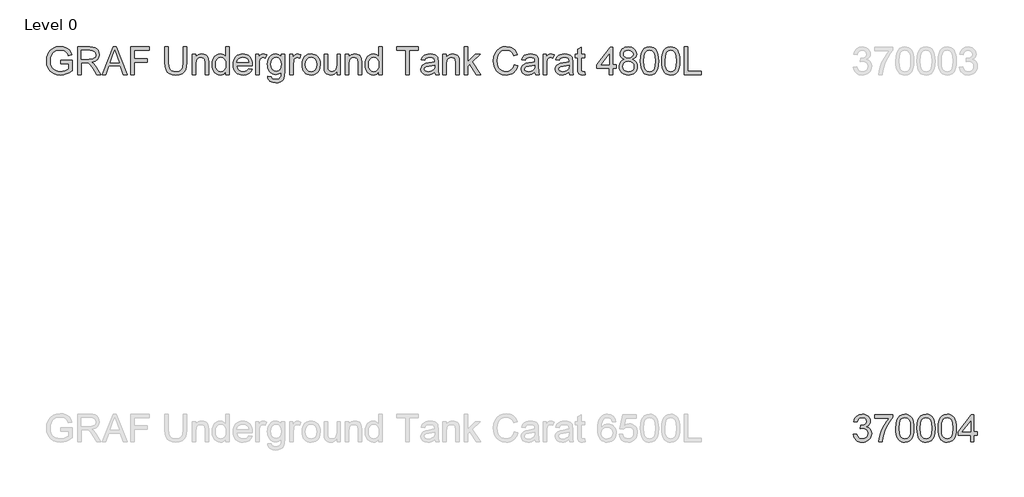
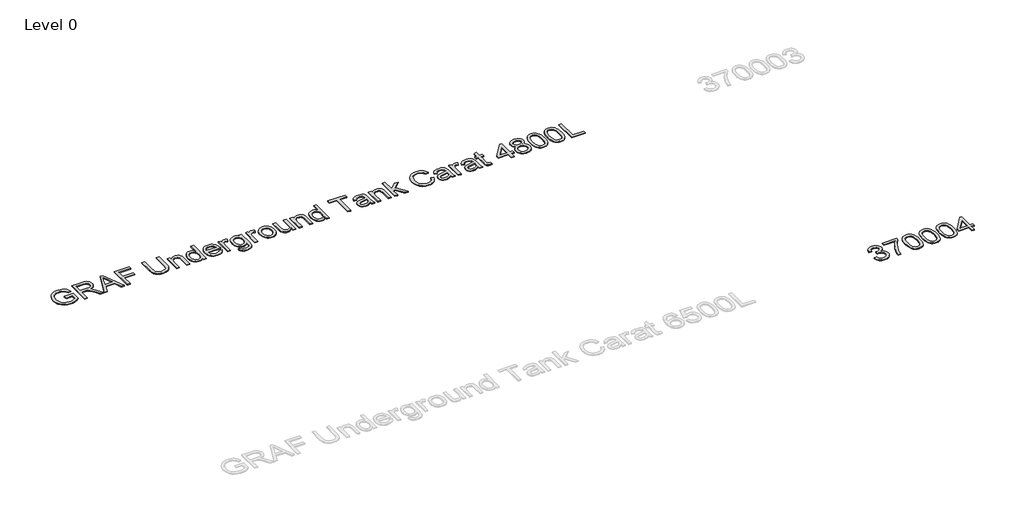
# One storey, part 14 of 19: 2 proxies.
"""IFC4 building model written with IfcOpenShell, lengths in millimetres."""

import ifcopenshell
import ifcopenshell.guid

model = None  # the IFC model being written
_history = None  # IfcOwnerHistory: only IFC2X3 demands one
_inside = {}  # id of a spatial element -> (the spatial element, [elements in it])
_under = {}  # id of a project, library or spatial element -> (it, [spatial elements below it])
_declared = {}  # id of a project -> (the project, [libraries it declares])
_typed = {}  # id of a type object -> (the type object, [elements of that type])
_made_of = {}  # id of a material, layer set ... -> (it, [elements and type objects made of it])


def new_model(schema):
    """Start an empty IFC model of exactly this schema.

    Asked for "IFC4X3", IfcOpenShell would pick the latest addendum, in which some entities
    have other attributes; the version numbers below select the first issue.
    IFC2X3 requires an IfcOwnerHistory on every rooted entity: one is made here for all.
    """
    global model, _history
    if schema == "IFC4X3":
        model = ifcopenshell.file(schema_version=(4, 3, 0, 0))
    else:
        model = ifcopenshell.file(schema=schema)
    _inside.clear()
    _under.clear()
    _declared.clear()
    _typed.clear()
    _made_of.clear()
    _history = None
    if model.schema == "IFC2X3":
        org = make("IfcOrganization", Name="unknown")
        user = make(
            "IfcPersonAndOrganization",
            ThePerson=make("IfcPerson", FamilyName="unknown"),
            TheOrganization=org,
        )
        app = make(
            "IfcApplication",
            ApplicationDeveloper=org,
            Version="unknown",
            ApplicationFullName="unknown",
            ApplicationIdentifier="unknown",
        )
        _history = make(
            "IfcOwnerHistory",
            OwningUser=user,
            OwningApplication=app,
            ChangeAction="ADDED",
            CreationDate=0,
        )
    return model


def make(cls, **values):
    """One entity of the class cls with the attributes given. An attribute that is None is left unset."""
    return model.create_entity(
        cls, **{name: value for name, value in values.items() if value is not None}
    )


def rooted(cls, **values):
    """An entity with a GlobalId (a new one), such as an element, a storey or a relation."""
    return make(cls, GlobalId=ifcopenshell.guid.new(), OwnerHistory=_history, **values)


def si_unit(unit_type, name, prefix=None):
    """IfcSIUnit, for example si_unit("LENGTHUNIT", "METRE", prefix="MILLI")."""
    return make("IfcSIUnit", UnitType=unit_type, Prefix=prefix, Name=name)


def assignment(units):
    """IfcUnitAssignment: the units of a project."""
    return None if units is None else make("IfcUnitAssignment", Units=units)


def point(xyz):
    """IfcCartesianPoint."""
    return None if xyz is None else make("IfcCartesianPoint", Coordinates=xyz)


def direction(xyz):
    """IfcDirection."""
    return None if xyz is None else make("IfcDirection", DirectionRatios=xyz)


def frame(location, z_axis=None, x_axis=None):
    """IfcAxis2Placement3D, a coordinate frame: its origin and axes. An axis left out is left unset."""
    return make(
        "IfcAxis2Placement3D",
        Location=point(location),
        Axis=direction(z_axis),
        RefDirection=direction(x_axis),
    )


def origin():
    """The frame at (0, 0, 0) with its axes left unset."""
    return frame((0.0, 0.0, 0.0))


def origin_with_axes():
    """The frame at (0, 0, 0) with the z axis (0, 0, 1) and the x axis (1, 0, 0) written out."""
    return frame((0.0, 0.0, 0.0), z_axis=(0.0, 0.0, 1.0), x_axis=(1.0, 0.0, 0.0))


def place(relative_to, where):
    """IfcLocalPlacement: puts the frame where relative to a parent placement (None: the world)."""
    return make(
        "IfcLocalPlacement", PlacementRelTo=relative_to, RelativePlacement=where
    )


def context(
    kind, dimensions, precision=None, world=None, true_north=None, identifier=None
):
    """IfcGeometricRepresentationContext, for example the 3D "Model" context."""
    return make(
        "IfcGeometricRepresentationContext",
        ContextIdentifier=identifier,
        ContextType=kind,
        CoordinateSpaceDimension=dimensions,
        Precision=precision,
        WorldCoordinateSystem=world,
        TrueNorth=true_north,
    )


def project(units=None, contexts=None):
    """IfcProject with its units and contexts."""
    return rooted(
        "IfcProject",
        Name="project",
        RepresentationContexts=contexts,
        UnitsInContext=assignment(units),
    )


def spatial(cls, under=None, at=None, **own):
    """A site, building, storey or space (cls), placed at a placement, below another one or the project."""
    s = rooted(cls, ObjectPlacement=at, **own)
    if under is not None:
        _under.setdefault(under.id(), (under, []))[1].append(s)
    return s


def polyline(points):
    """IfcPolyline through the points."""
    return make("IfcPolyline", Points=[point(p) for p in points])


def outline(outer, holes=None, kind="AREA"):
    """IfcArbitraryClosedProfileDef: a profile drawn as a closed curve; with holes, ...WithVoids."""
    if holes is None:
        return make("IfcArbitraryClosedProfileDef", ProfileType=kind, OuterCurve=outer)
    return make(
        "IfcArbitraryProfileDefWithVoids",
        ProfileType=kind,
        OuterCurve=outer,
        InnerCurves=holes,
    )


def extrude(swept, where, along, depth):
    """IfcExtrudedAreaSolid: the profile swept, set in the frame where, extruded along a direction by depth."""
    return make(
        "IfcExtrudedAreaSolid",
        SweptArea=swept,
        Position=where,
        ExtrudedDirection=direction(along),
        Depth=depth,
    )


def shape(context_of_items, identifier, shape_type, items):
    """IfcShapeRepresentation: the items that make up one representation, for example the "Body"."""
    return make(
        "IfcShapeRepresentation",
        ContextOfItems=context_of_items,
        RepresentationIdentifier=identifier,
        RepresentationType=shape_type,
        Items=items,
    )


def made_of(thing, what):
    """Note that an element or type object is made of a material, layer set ...; save() writes the relation."""
    if what is not None:
        _made_of.setdefault(what.id(), (what, []))[1].append(thing)
    return thing


def element(
    cls,
    number,
    at=None,
    inside=None,
    cuts=None,
    type_object=None,
    material=None,
    context=None,
    identifier="Body",
    shape_type=None,
    held_by="IfcProductDefinitionShape",
    body=None,
    shapes=None,
    **own,
):
    """One element of the class cls, such as IfcWall. Its Tag is "e" and its number.

    at: its placement. inside: the storey or other place that contains it. cuts: it is an
    opening in that element (IfcRelVoidsElement). A single representation is given by context,
    identifier, shape_type and body (its items); several are given by shapes. held_by: the class
    of the entity that holds the representations. save() writes the other relations.
    """
    e = rooted(cls, Tag="e%d" % number, ObjectPlacement=at, **own)
    if body is not None:
        shapes = [shape(context, identifier, shape_type, body)]
    if shapes is not None:
        e.Representation = make(held_by, Representations=shapes)
    if inside is not None:
        _inside.setdefault(inside.id(), (inside, []))[1].append(e)
    if cuts is not None:
        rooted(
            "IfcRelVoidsElement", RelatingBuildingElement=cuts, RelatedOpeningElement=e
        )
    if type_object is not None:
        _typed.setdefault(type_object.id(), (type_object, []))[1].append(e)
    return made_of(e, material)


def aggregate(whole, parts):
    """IfcRelAggregates: a whole, such as a stair, and the parts it consists of."""
    return rooted("IfcRelAggregates", RelatingObject=whole, RelatedObjects=parts)


def save(model, path):
    """Write the relations noted so far, then the file.

    IfcRelAggregates (storeys below a building ...), IfcRelContainedInSpatialStructure (elements
    in a storey), IfcRelDefinesByType, IfcRelAssociatesMaterial and IfcRelDeclares: one each for
    every whole, place, type object, material and project.
    """
    for whole, parts in _under.values():
        aggregate(whole, parts)
    for where, things in _inside.values():
        rooted(
            "IfcRelContainedInSpatialStructure",
            RelatedElements=things,
            RelatingStructure=where,
        )
    for kind, things in _typed.values():
        rooted("IfcRelDefinesByType", RelatedObjects=things, RelatingType=kind)
    for what, things in _made_of.values():
        rooted("IfcRelAssociatesMaterial", RelatedObjects=things, RelatingMaterial=what)
    for by, libraries in _declared.values():
        rooted("IfcRelDeclares", RelatingContext=by, RelatedDefinitions=libraries)
    model.write(path)


model = new_model("IFC4")

# Units and contexts
model_context = context("Model", 3, world=origin())
ifc_project = project(units=[si_unit("LENGTHUNIT", "METRE", prefix="MILLI")], contexts=[model_context])

# Site, building, storey
site = spatial("IfcSite", under=ifc_project)
building = spatial("IfcBuilding", under=site)
storey = spatial("IfcBuildingStorey", under=building, Name="Level 0", Elevation=0.0)

# Proxies
placement = place(None, origin())
element("IfcBuildingElementProxy", 1, Name="300mm Arial", ObjectType="300mm Arial", at=placement, inside=storey, context=model_context, shape_type="SweptSolid", body=[
    extrude(outline(polyline([(-14980.9940387, 1416.7454403), (-14980.9940387, 1454.4165566), (-14858.5629107, 1454.4165566), (-14858.5629107, 1341.7710897), (-14888.3153671, 1321.0777274), (-14919.0059225, 1306.2336889), (-14950.5610007, 1297.2941564), (-14982.9070251, 1294.3143123), (-15025.1674693, 1299.050793), (-15063.3628175, 1313.260235), (-15095.0926395, 1336.4459978), (-15117.9565055, 1368.1114405), (-15131.7796715, 1406.0952565), (-15136.3873935, 1448.2361391), (-15131.7980656, 1490.6805243), (-15118.0300819, 1530.1634594), (-15095.6536596, 1563.282036), (-15065.2390156, 1586.6333457), (-15028.1932987, 1600.4841028), (-14985.9236575, 1605.1010218), (-14954.8928112, 1602.4246803), (-14926.9889618, 1594.3956557), (-14903.4904994, 1581.5933623), (-14885.6758138, 1564.5972141), (-14872.4964413, 1542.5886738), (-14862.9039183, 1514.7492038), (-14897.6319786, 1504.9635427), (-14905.3850917, 1524.8199734), (-14914.8120678, 1539.8019677), (-14927.2832674, 1551.0959449), (-14944.169051, 1559.8883246), (-14964.3013932, 1565.5445103), (-14986.5122687, 1567.4299055), (-15012.5123287, 1565.3973575), (-15034.7415982, 1559.2997134), (-15053.1173039, 1549.9003284), (-15067.5566722, 1537.9625577), (-15086.9440533, 1508.9366683), (-15095.7732212, 1480.49939), (-15098.7162772, 1449.7812434), (-15095.175413, 1413.7563991), (-15084.5528204, 1384.1143073), (-15067.1703961, 1361.0665003), (-15043.3500369, 1344.8245102), (-15015.4737787, 1335.195199), (-14985.9236575, 1331.9854286), (-14959.831627, 1334.4042527), (-14934.3833899, 1341.6607251), (-14912.2828791, 1351.6579183), (-14896.234027, 1362.298905), (-14896.234027, 1416.7454403), (-14980.9940387, 1416.7454403)])), origin_with_axes(), (0.0, 0.0, 1.0), 10.0),
    extrude(outline(polyline([(-14797.3473467, 1299.0232018), (-14797.3473467, 1600.3921323), (-14667.4850024, 1600.3921323), (-14632.5821982, 1598.3595842), (-14607.1891434, 1592.2619402), (-14588.6294968, 1581.0047511), (-14574.2269167, 1563.4935682), (-14564.9838815, 1541.7793334), (-14561.9028698, 1517.912989), (-14567.0072325, 1488.2249119), (-14582.3203206, 1463.6136065), (-14593.9200997, 1453.5842236), (-14608.3019865, 1445.5689946), (-14645.4120827, 1435.5809984), (-14624.0013506, 1419.467767), (-14593.467145, 1380.6930048), (-14543.2144645, 1299.0232018), (-14586.9924219, 1299.0232018), (-14626.2086426, 1361.4895646), (-14654.5355562, 1402.8395009), (-14674.4379722, 1422.3740348), (-14692.3538253, 1429.5477337), (-14714.2060158, 1430.8721089), (-14759.6762304, 1430.8721089), (-14759.6762304, 1299.0232018), (-14797.3473467, 1299.0232018)]), holes=[polyline([(-14759.6762304, 1468.5432252), (-14675.3576771, 1468.5432252), (-14651.1418448, 1469.8767974), (-14632.3522719, 1473.8775141), (-14618.2072092, 1480.8120897), (-14607.9249074, 1490.9472387), (-14601.6617165, 1503.2069062), (-14599.5739861, 1516.5150374), (-14603.5563087, 1534.890743), (-14615.5032765, 1549.6979933), (-14636.058683, 1559.4652603), (-14665.8663217, 1562.721016), (-14759.6762304, 1562.721016), (-14759.6762304, 1468.5432252)])]), origin_with_axes(), (0.0, 0.0, 1.0), 10.0),
    extrude(outline(polyline([(-14531.0743586, 1299.0232018), (-14410.7769462, 1600.3921323), (-14378.6976362, 1600.3921323), (-14258.4002238, 1299.0232018), (-14298.2050557, 1299.0232018), (-14332.7123868, 1393.2009926), (-14456.835772, 1393.2009926), (-14491.2695268, 1299.0232018), (-14531.0743586, 1299.0232018)]), holes=[polyline([(-14443.003409, 1430.8721089), (-14346.4711735, 1430.8721089), (-14373.6208647, 1504.9635427), (-14394.7372912, 1562.721016), (-14413.499273, 1511.4382658), (-14443.003409, 1430.8721089)])]), origin_with_axes(), (0.0, 0.0, 1.0), 10.0),
    extrude(outline(polyline([(-14218.1539335, 1299.0232018), (-14218.1539335, 1600.3921323), (-14015.6716834, 1600.3921323), (-14015.6716834, 1562.721016), (-14180.4828172, 1562.721016), (-14180.4828172, 1473.2521147), (-14039.2161311, 1473.2521147), (-14039.2161311, 1435.5809984), (-14180.4828172, 1435.5809984), (-14180.4828172, 1299.0232018), (-14218.1539335, 1299.0232018)])), origin_with_axes(), (0.0, 0.0, 1.0), 10.0),
    extrude(outline(polyline([(-13648.3782994, 1600.3921323), (-13610.7071831, 1600.3921323), (-13610.7071831, 1426.5311014), (-13613.263963, 1385.8157615), (-13620.9343026, 1354.4630185), (-13635.2633063, 1330.2747773), (-13657.7960785, 1311.0529431), (-13688.5878015, 1298.49897), (-13727.6936576, 1294.3143123), (-13765.944188, 1297.956344), (-13796.5243789, 1308.8824393), (-13819.4434272, 1326.715519), (-13834.71053, 1351.0785041), (-13843.2913775, 1383.7556224), (-13846.15166, 1426.5311014), (-13846.15166, 1600.3921323), (-13808.4805437, 1600.3921323), (-13808.4805437, 1427.8554765), (-13806.6227396, 1394.0011359), (-13801.0493274, 1370.4290971), (-13790.9509666, 1354.1043335), (-13775.5183169, 1341.9918189), (-13755.3951718, 1334.4870262), (-13731.2253247, 1331.9854286), (-13692.9104149, 1336.9334414), (-13678.5676156, 1343.1184575), (-13667.4345868, 1351.7774799), (-13659.097461, 1363.954374), (-13653.1423712, 1380.6930048), (-13648.3782994, 1427.8554765), (-13648.3782994, 1600.3921323)])), origin_with_axes(), (0.0, 0.0, 1.0), 10.0),
    extrude(outline(polyline([(-13549.4916191, 1299.0232018), (-13549.4916191, 1520.3410101), (-13511.8205028, 1520.3410101), (-13511.8205028, 1489.4389225), (-13498.7331008, 1505.018725), (-13483.0153426, 1516.1471554), (-13464.6672281, 1522.8242136), (-13443.6887573, 1525.0498997), (-13425.1199136, 1523.2564749), (-13408.1145684, 1517.8762008), (-13393.9327174, 1509.5804618), (-13383.8343567, 1499.0406426), (-13372.5403794, 1471.3391284), (-13370.5538166, 1434.9188108), (-13370.5538166, 1299.0232018), (-13408.224933, 1299.0232018), (-13408.224933, 1429.8420393), (-13412.5659405, 1463.1721481), (-13418.5716141, 1473.0957649), (-13427.9066197, 1480.7936956), (-13439.8719816, 1485.7325114), (-13453.768724, 1487.3787834), (-13475.8324466, 1483.6815693), (-13494.6404136, 1472.5899271), (-13502.1567026, 1463.5354315), (-13507.5254805, 1451.1608009), (-13511.8205028, 1416.4511347), (-13511.8205028, 1299.0232018), (-13549.4916191, 1299.0232018)])), origin_with_axes(), (0.0, 0.0, 1.0), 10.0),
    extrude(outline(polyline([(-13182.1982351, 1299.0232018), (-13182.1982351, 1334.5606026), (-13193.4692197, 1316.9528506), (-13207.1222403, 1304.3758849), (-13223.1572968, 1296.8297054), (-13241.5743891, 1294.3143123), (-13265.9281772, 1297.956344), (-13288.2218261, 1308.8824393), (-13307.0941725, 1326.3292429), (-13321.1840529, 1349.5333998), (-13329.9580385, 1377.5568107), (-13332.8827003, 1409.4613768), (-13330.1879647, 1440.9704697), (-13322.1037579, 1469.426142), (-13308.6392769, 1493.209713), (-13289.8037187, 1510.7025018), (-13267.0226262, 1521.4630502), (-13241.7215419, 1525.0498997), (-13223.290654, 1522.4839227), (-13206.9934816, 1514.785992), (-13193.1795127, 1502.986177), (-13182.1982351, 1488.1145473), (-13182.1982351, 1600.3921323), (-13144.5271188, 1600.3921323), (-13144.5271188, 1299.0232018), (-13182.1982351, 1299.0232018)]), holes=[polyline([(-13295.211584, 1409.6085296), (-13290.962547, 1375.5334598), (-13278.2154359, 1351.2992333), (-13259.6925774, 1336.8138798), (-13238.1162984, 1331.9854286), (-13216.5492164, 1336.5931506), (-13198.4954075, 1350.4163165), (-13186.2725282, 1373.7124439), (-13182.1982351, 1406.73905), (-13186.3461046, 1442.8466678), (-13198.7897131, 1467.8810376), (-13217.3033745, 1482.5043469), (-13239.6614028, 1487.3787834), (-13261.458411, 1482.697485), (-13279.3190818, 1468.6535898), (-13291.2384585, 1444.529728), (-13295.211584, 1409.6085296)])]), origin_with_axes(), (0.0, 0.0, 1.0), 10.0),
    extrude(outline(polyline([(-12933.068548, 1364.9476554), (-12896.1331957, 1360.2387658), (-12909.4413268, 1332.4084929), (-12930.677315, 1311.6047661), (-12959.3629136, 1298.6369257), (-12995.019876, 1294.3143123), (-13018.3941782, 1296.1790141), (-13039.2208977, 1301.7731197), (-13057.5000343, 1311.0966291), (-13073.2315881, 1324.1495421), (-13085.8821303, 1340.5685754), (-13094.9182318, 1359.9904455), (-13100.3398927, 1382.4151523), (-13102.147113, 1407.842696), (-13100.3214986, 1434.1324631), (-13094.8446554, 1457.3044302), (-13085.7165834, 1477.3585975), (-13072.9372826, 1494.2949649), (-13057.2471155, 1507.7502488), (-13039.3864446, 1517.361166), (-13019.35527, 1523.1277162), (-12997.1535915, 1525.0498997), (-12975.6669838, 1523.1323148), (-12956.2359166, 1517.3795601), (-12938.8603901, 1507.7916356), (-12923.5404043, 1494.3685413), (-12911.0347157, 1477.4689621), (-12902.102081, 1457.451583), (-12896.7425002, 1434.3164041), (-12894.9559733, 1408.0634252), (-12895.1767025, 1397.9098821), (-13064.4759967, 1397.9098821), (-13057.9552883, 1369.7117272), (-13042.8077471, 1348.9815768), (-13020.9463596, 1336.2344656), (-12994.284112, 1331.9854286), (-12974.2345432, 1333.9535973), (-12957.3487597, 1339.8581033), (-12943.6267612, 1350.0668287), (-12933.068548, 1364.9476554)]), holes=[polyline([(-13064.4759967, 1435.5809984), (-12932.6270896, 1435.5809984), (-12937.7222552, 1455.4834144), (-12947.7102514, 1469.7204476), (-12969.6728065, 1482.9641994), (-12997.3007443, 1487.3787834), (-13022.6937991, 1483.8563132), (-13043.6906639, 1473.2889029), (-13058.2863821, 1456.8169866), (-13064.4759967, 1435.5809984)])]), origin_with_axes(), (0.0, 0.0, 1.0), 10.0),
    extrude(outline(polyline([(-12857.284857, 1299.0232018), (-12857.284857, 1520.3410101), (-12824.3226302, 1520.3410101), (-12824.3226302, 1487.5995125), (-12812.1457362, 1506.5822235), (-12800.9253353, 1517.7658362), (-12789.6681463, 1523.2288838), (-12777.3808876, 1525.0498997), (-12758.6189059, 1522.1436319), (-12739.5626185, 1513.4248286), (-12752.1441828, 1479.6532615), (-12765.3879346, 1485.4474029), (-12778.6316864, 1487.3787834), (-12789.8796784, 1485.5209793), (-12799.9320539, 1479.947567), (-12808.053049, 1471.081611), (-12813.5068996, 1459.3461753), (-12818.0870304, 1438.3033252), (-12819.6137407, 1415.3474887), (-12819.6137407, 1299.0232018), (-12857.284857, 1299.0232018)])), origin_with_axes(), (0.0, 0.0, 1.0), 10.0),
    extrude(outline(polyline([(-12725.4359499, 1280.1876437), (-12687.7648336, 1275.4787541), (-12683.6077671, 1263.7065303), (-12675.5511514, 1255.6131264), (-12659.7138315, 1249.3223443), (-12638.983681, 1247.2254169), (-12616.8739731, 1249.5982558), (-12600.4296479, 1256.7167724), (-12589.0253061, 1268.1211142), (-12582.0355482, 1283.3514288), (-12579.4603742, 1327.2765391), (-12591.9959532, 1314.915704), (-12605.9846661, 1306.0865361), (-12621.4265128, 1300.7890354), (-12638.3214935, 1299.0232018), (-12658.9757682, 1301.0787425), (-12677.1606351, 1307.2453644), (-12692.8760941, 1317.5230677), (-12706.1221452, 1331.9118522), (-12716.6320739, 1349.1747148), (-12724.1391659, 1368.0746523), (-12728.6434211, 1388.6116647), (-12730.1448394, 1410.785752), (-12727.4501038, 1441.2003959), (-12719.365897, 1469.1686246), (-12706.1773275, 1492.8694221), (-12688.1695038, 1510.4817726), (-12665.9586283, 1521.4078679), (-12640.1609034, 1525.0498997), (-12622.5439544, 1522.9897605), (-12606.5548832, 1516.809343), (-12592.1936898, 1506.5086471), (-12579.4603742, 1492.0876729), (-12579.4603742, 1520.3410101), (-12541.7892579, 1520.3410101), (-12541.7892579, 1329.2631018), (-12544.3644319, 1285.1448536), (-12552.0899538, 1256.091373), (-12565.398085, 1236.8235535), (-12584.7210868, 1222.0622884), (-12609.6358949, 1212.6812976), (-12639.719445, 1209.5543006), (-12674.7694021, 1213.9596875), (-12702.3697488, 1227.1758482), (-12712.7647144, 1237.0971657), (-12720.0740698, 1249.2395708), (-12724.297815, 1263.6030635), (-12725.4359499, 1280.1876437)]), holes=[polyline([(-12692.4737231, 1413.3609259), (-12688.4546123, 1378.8076095), (-12676.39728, 1355.0516297), (-12658.2698946, 1341.283646), (-12636.0406251, 1336.6943181), (-12613.9769024, 1341.2560549), (-12595.7575466, 1354.9412651), (-12583.5346673, 1378.3937423), (-12579.4603742, 1412.2572799), (-12583.654229, 1444.9160041), (-12596.2357932, 1468.4328606), (-12614.7218635, 1482.6423027), (-12636.6292363, 1487.3787834), (-12658.1411359, 1482.7158791), (-12676.1765508, 1468.7271662), (-12688.39943, 1445.5597976), (-12692.4737231, 1413.3609259)])]), origin_with_axes(), (0.0, 0.0, 1.0), 10.0),
    extrude(outline(polyline([(-12485.2825835, 1299.0232018), (-12485.2825835, 1520.3410101), (-12452.3203567, 1520.3410101), (-12452.3203567, 1487.5995125), (-12440.1434626, 1506.5822235), (-12428.9230618, 1517.7658362), (-12417.6658727, 1523.2288838), (-12405.3786141, 1525.0498997), (-12386.6166324, 1522.1436319), (-12367.560345, 1513.4248286), (-12380.1419092, 1479.6532615), (-12393.3856611, 1485.4474029), (-12406.6294129, 1487.3787834), (-12417.8774049, 1485.5209793), (-12427.9297804, 1479.947567), (-12436.0507755, 1471.081611), (-12441.504626, 1459.3461753), (-12446.0847569, 1438.3033252), (-12447.6114672, 1415.3474887), (-12447.6114672, 1299.0232018), (-12485.2825835, 1299.0232018)])), origin_with_axes(), (0.0, 0.0, 1.0), 10.0),
    extrude(outline(polyline([(-12353.4336764, 1409.682106), (-12351.3965298, 1438.3447119), (-12345.2850902, 1463.0433894), (-12335.0993575, 1483.7781383), (-12320.8393316, 1500.5489588), (-12306.4827368, 1511.2681204), (-12290.6362198, 1518.9246644), (-12273.2997808, 1523.5185909), (-12254.4734197, 1525.0498997), (-12233.6903862, 1523.1851978), (-12214.8985141, 1517.5910922), (-12198.0978032, 1508.2675829), (-12183.2882536, 1495.2146698), (-12171.2010308, 1478.8738115), (-12162.5673002, 1459.6864662), (-12157.3870619, 1437.6526339), (-12155.6603158, 1412.7723147), (-12158.7137363, 1374.7149223), (-12167.873998, 1345.7442152), (-12182.8743864, 1324.0483745), (-12203.448187, 1307.8155815), (-12227.8847485, 1297.6896296), (-12254.4734197, 1294.3143123), (-12275.5599558, 1296.1721164), (-12294.5265719, 1301.7455286), (-12311.373268, 1311.034549), (-12326.1000441, 1324.0391775), (-12338.0585082, 1340.538685), (-12346.6002683, 1360.3123422), (-12351.7253244, 1383.3601492), (-12353.4336764, 1409.682106)]), holes=[polyline([(-12315.7625601, 1409.7556824), (-12311.4031584, 1375.6622185), (-12298.3249535, 1351.3728097), (-12278.6432668, 1336.8322739), (-12254.4734197, 1331.9854286), (-12230.4139372, 1336.859865), (-12210.7690387, 1351.4831743), (-12197.6908337, 1376.0944798), (-12193.3314321, 1410.9329048), (-12197.7184249, 1444.0330873), (-12210.8794033, 1467.9914022), (-12230.5518929, 1482.5319381), (-12254.4734197, 1487.3787834), (-12278.6432668, 1482.5503322), (-12298.3249535, 1468.0649786), (-12311.4031584, 1443.8307522), (-12315.7625601, 1409.7556824)])]), origin_with_axes(), (0.0, 0.0, 1.0), 10.0),
    extrude(outline(polyline([(-11972.0136238, 1299.0232018), (-11972.0136238, 1337.0622001), (-11985.6436517, 1318.3599992), (-12001.5177598, 1305.0012842), (-12019.6359481, 1296.9860553), (-12039.9982165, 1294.3143123), (-12058.346331, 1296.1905105), (-12075.4252526, 1301.819105), (-12089.7542563, 1310.2803909), (-12099.8526171, 1320.6546631), (-12111.073018, 1348.3929656), (-12113.2803099, 1383.4153315), (-12113.2803099, 1520.3410101), (-12075.6091936, 1520.3410101), (-12075.6091936, 1401.1472437), (-12073.3283253, 1362.7403634), (-12067.8376865, 1349.9288729), (-12058.4291045, 1340.1891971), (-12045.7279786, 1334.0363707), (-12030.3597082, 1331.9854286), (-12014.1085211, 1334.082356), (-11998.9057976, 1340.3731381), (-11986.3702186, 1350.2783608), (-11978.1204649, 1363.21861), (-11973.5403341, 1380.9413251), (-11972.0136238, 1405.1939456), (-11972.0136238, 1520.3410101), (-11934.3425075, 1520.3410101), (-11934.3425075, 1299.0232018), (-11972.0136238, 1299.0232018)])), origin_with_axes(), (0.0, 0.0, 1.0), 10.0),
    extrude(outline(polyline([(-11882.5447226, 1299.0232018), (-11882.5447226, 1520.3410101), (-11844.8736063, 1520.3410101), (-11844.8736063, 1489.4389225), (-11831.7862043, 1505.018725), (-11816.068446, 1516.1471554), (-11797.7203315, 1522.8242136), (-11776.7418607, 1525.0498997), (-11758.173017, 1523.2564749), (-11741.1676718, 1517.8762008), (-11726.9858209, 1509.5804618), (-11716.8874601, 1499.0406426), (-11705.5934829, 1471.3391284), (-11703.6069201, 1434.9188108), (-11703.6069201, 1299.0232018), (-11741.2780364, 1299.0232018), (-11741.2780364, 1429.8420393), (-11745.619044, 1463.1721481), (-11751.6247175, 1473.0957649), (-11760.9597232, 1480.7936956), (-11772.925085, 1485.7325114), (-11786.8218274, 1487.3787834), (-11808.8855501, 1483.6815693), (-11827.6935171, 1472.5899271), (-11835.2098061, 1463.5354315), (-11840.578584, 1451.1608009), (-11844.8736063, 1416.4511347), (-11844.8736063, 1299.0232018), (-11882.5447226, 1299.0232018)])), origin_with_axes(), (0.0, 0.0, 1.0), 10.0),
    extrude(outline(polyline([(-11515.2513386, 1299.0232018), (-11515.2513386, 1334.5606026), (-11526.5223232, 1316.9528506), (-11540.1753437, 1304.3758849), (-11556.2104002, 1296.8297054), (-11574.6274926, 1294.3143123), (-11598.9812807, 1297.956344), (-11621.2749296, 1308.8824393), (-11640.1472759, 1326.3292429), (-11654.2371564, 1349.5333998), (-11663.0111419, 1377.5568107), (-11665.9358038, 1409.4613768), (-11663.2410682, 1440.9704697), (-11655.1568613, 1469.426142), (-11641.6923803, 1493.209713), (-11622.8568222, 1510.7025018), (-11600.0757296, 1521.4630502), (-11574.7746454, 1525.0498997), (-11556.3437574, 1522.4839227), (-11540.046585, 1514.785992), (-11526.2326161, 1502.986177), (-11515.2513386, 1488.1145473), (-11515.2513386, 1600.3921323), (-11477.5802223, 1600.3921323), (-11477.5802223, 1299.0232018), (-11515.2513386, 1299.0232018)]), holes=[polyline([(-11628.2646875, 1409.6085296), (-11624.0156504, 1375.5334598), (-11611.2685393, 1351.2992333), (-11592.7456809, 1336.8138798), (-11571.1694018, 1331.9854286), (-11549.6023199, 1336.5931506), (-11531.548511, 1350.4163165), (-11519.3256317, 1373.7124439), (-11515.2513386, 1406.73905), (-11519.3992081, 1442.8466678), (-11531.8428166, 1467.8810376), (-11550.356478, 1482.5043469), (-11572.7145062, 1487.3787834), (-11594.5115144, 1482.697485), (-11612.3721853, 1468.6535898), (-11624.2915619, 1444.529728), (-11628.2646875, 1409.6085296)])]), origin_with_axes(), (0.0, 0.0, 1.0), 10.0),
    extrude(outline(polyline([(-11223.3001872, 1299.0232018), (-11223.3001872, 1562.721016), (-11322.1868675, 1562.721016), (-11322.1868675, 1600.3921323), (-11086.7423906, 1600.3921323), (-11086.7423906, 1562.721016), (-11185.6290709, 1562.721016), (-11185.6290709, 1299.0232018), (-11223.3001872, 1299.0232018)])), origin_with_axes(), (0.0, 0.0, 1.0), 10.0),
    extrude(outline(polyline([(-10907.8045881, 1327.2765391), (-10925.8032148, 1311.8438894), (-10944.3352703, 1301.7455286), (-10963.823819, 1296.1721164), (-10984.6919251, 1294.3143123), (-11016.1734269, 1298.7840785), (-11039.3959778, 1312.1933772), (-11053.7157845, 1332.5556457), (-11058.4890534, 1357.8843211), (-11056.6864316, 1373.5009117), (-11051.2785663, 1387.6827627), (-11042.936842, 1399.8228685), (-11032.3326435, 1409.314224), (-11005.9555045, 1421.675059), (-10973.3611597, 1427.3404417), (-10934.8439148, 1433.3001301), (-10908.0253173, 1440.289888), (-10907.8045881, 1448.6775975), (-10910.3981562, 1465.4898046), (-10918.1788604, 1476.4894763), (-10935.5796788, 1484.6564566), (-10959.8231023, 1487.3787834), (-10982.263904, 1485.5669645), (-10997.935677, 1480.131508), (-11008.6226489, 1470.0791325), (-11016.1090475, 1454.4165566), (-11053.7801638, 1459.1254461), (-11047.2410614, 1479.7268379), (-11037.4829914, 1495.9136456), (-11023.5954461, 1508.2928748), (-11004.6679175, 1517.4715306), (-10981.5189429, 1523.1553074), (-10954.9670599, 1525.0498997), (-10929.5004288, 1523.3760366), (-10909.3129043, 1518.3544473), (-10894.0917868, 1510.8036694), (-10883.5243765, 1501.5422402), (-10876.5162244, 1490.0919131), (-10871.9728818, 1475.9744415), (-10870.1334718, 1443.0122147), (-10870.1334718, 1396.1440485), (-10868.2204855, 1330.6978416), (-10860.7156928, 1299.0232018), (-10898.3868091, 1299.0232018), (-10907.8045881, 1327.2765391)]), holes=[polyline([(-10907.8045881, 1402.6187717), (-10968.5786937, 1391.067277), (-11000.9890975, 1384.9604359), (-11015.6675891, 1375.027622), (-11020.8179371, 1360.5330714), (-11018.0128368, 1349.3310647), (-11009.5975362, 1340.1524089), (-10995.7559761, 1334.0271737), (-10976.6720976, 1331.9854286), (-10956.4385879, 1334.2387058), (-10938.5595229, 1340.9985375), (-10924.0649723, 1350.9589425), (-10913.9850057, 1362.8139398), (-10909.5152394, 1375.027622), (-10908.0253173, 1391.9501938), (-10907.8045881, 1402.6187717)])]), origin_with_axes(), (0.0, 0.0, 1.0), 10.0),
    extrude(outline(polyline([(-10818.3356869, 1299.0232018), (-10818.3356869, 1520.3410101), (-10780.6645706, 1520.3410101), (-10780.6645706, 1489.4389225), (-10767.5771686, 1505.018725), (-10751.8594104, 1516.1471554), (-10733.5112959, 1522.8242136), (-10712.5328251, 1525.0498997), (-10693.9639814, 1523.2564749), (-10676.9586362, 1517.8762008), (-10662.7767853, 1509.5804618), (-10652.6784245, 1499.0406426), (-10641.3844472, 1471.3391284), (-10639.3978845, 1434.9188108), (-10639.3978845, 1299.0232018), (-10677.0690008, 1299.0232018), (-10677.0690008, 1429.8420393), (-10681.4100083, 1463.1721481), (-10687.4156819, 1473.0957649), (-10696.7506875, 1480.7936956), (-10708.7160494, 1485.7325114), (-10722.6127918, 1487.3787834), (-10744.6765144, 1483.6815693), (-10763.4844814, 1472.5899271), (-10771.0007704, 1463.5354315), (-10776.3695483, 1451.1608009), (-10780.6645706, 1416.4511347), (-10780.6645706, 1299.0232018), (-10818.3356869, 1299.0232018)])), origin_with_axes(), (0.0, 0.0, 1.0), 10.0),
    extrude(outline(polyline([(-10587.6000995, 1299.0232018), (-10587.6000995, 1600.3921323), (-10549.9289832, 1600.3921323), (-10549.9289832, 1438.450478), (-10465.4632771, 1520.3410101), (-10413.3711866, 1520.3410101), (-10498.8669623, 1437.4204084), (-10408.6622971, 1299.0232018), (-10452.6609837, 1299.0232018), (-10525.8695007, 1411.2272104), (-10549.9289832, 1387.9034919), (-10549.9289832, 1299.0232018), (-10587.6000995, 1299.0232018)])), origin_with_axes(), (0.0, 0.0, 1.0), 10.0),
    extrude(outline(polyline([(-10041.3689131, 1406.1504388), (-10003.6977968, 1396.4383541), (-10011.1520057, 1373.0111688), (-10021.0802211, 1352.5408351), (-10033.4824428, 1335.0273528), (-10048.358671, 1320.4707221), (-10065.3732133, 1309.0272928), (-10084.1903773, 1300.8534147), (-10104.8101632, 1295.9490879), (-10127.2325708, 1294.3143123), (-10170.9277547, 1299.2623251), (-10205.6282239, 1314.1063636), (-10232.2260922, 1338.331393), (-10251.6134733, 1371.4223785), (-10263.4500765, 1410.3258995), (-10267.3956109, 1451.9885354), (-10262.9350417, 1495.9320397), (-10249.5533342, 1533.8790675), (-10227.949464, 1564.6248053), (-10198.822407, 1586.9644394), (-10164.2782877, 1600.5668762), (-10126.4232304, 1605.1010218), (-10085.1192794, 1599.233304), (-10067.1505432, 1591.8986567), (-10050.9706332, 1581.6301505), (-10036.8462638, 1568.6990984), (-10025.0441496, 1553.3768133), (-10008.4066863, 1515.5585442), (-10046.0778026, 1506.5822235), (-10059.1376135, 1534.0538115), (-10076.9798902, 1552.8985667), (-10099.8253621, 1563.7970708), (-10127.8947584, 1567.4299055), (-10160.2499798, 1563.4015977), (-10186.829454, 1551.3166741), (-10206.9985844, 1532.4443278), (-10220.1227746, 1508.0537515), (-10227.3240646, 1480.4809959), (-10229.7244946, 1452.0621118), (-10226.8826062, 1417.2604751), (-10218.356941, 1387.1677279), (-10203.8256022, 1362.9335014), (-10182.966693, 1345.707427), (-10157.9599144, 1335.4159282), (-10130.9849671, 1331.9854286), (-10099.5402536, 1336.6575299), (-10073.3378585, 1350.6738339), (-10053.5550042, 1373.8871878), (-10041.3689131, 1406.1504388)])), origin_with_axes(), (0.0, 0.0, 1.0), 10.0),
    extrude(outline(polyline([(-9815.3422153, 1327.2765391), (-9833.3408419, 1311.8438894), (-9851.8728974, 1301.7455286), (-9871.3614461, 1296.1721164), (-9892.2295523, 1294.3143123), (-9923.711054, 1298.7840785), (-9946.9336049, 1312.1933772), (-9961.2534116, 1332.5556457), (-9966.0266805, 1357.8843211), (-9964.2240587, 1373.5009117), (-9958.8161934, 1387.6827627), (-9950.4744691, 1399.8228685), (-9939.8702706, 1409.314224), (-9913.4931316, 1421.675059), (-9880.8987868, 1427.3404417), (-9842.3815419, 1433.3001301), (-9815.5629445, 1440.289888), (-9815.3422153, 1448.6775975), (-9817.9357833, 1465.4898046), (-9825.7164875, 1476.4894763), (-9843.1173059, 1484.6564566), (-9867.3607294, 1487.3787834), (-9889.8015311, 1485.5669645), (-9905.4733041, 1480.131508), (-9916.160276, 1470.0791325), (-9923.6466746, 1454.4165566), (-9961.3177909, 1459.1254461), (-9954.7786885, 1479.7268379), (-9945.0206186, 1495.9136456), (-9931.1330732, 1508.2928748), (-9912.2055446, 1517.4715306), (-9889.05657, 1523.1553074), (-9862.504687, 1525.0498997), (-9837.0380559, 1523.3760366), (-9816.8505314, 1518.3544473), (-9801.6294139, 1510.8036694), (-9791.0620036, 1501.5422402), (-9784.0538516, 1490.0919131), (-9779.5105089, 1475.9744415), (-9777.671099, 1443.0122147), (-9777.671099, 1396.1440485), (-9775.7581126, 1330.6978416), (-9768.2533199, 1299.0232018), (-9805.9244362, 1299.0232018), (-9815.3422153, 1327.2765391)]), holes=[polyline([(-9815.3422153, 1402.6187717), (-9876.1163209, 1391.067277), (-9908.5267246, 1384.9604359), (-9923.2052162, 1375.027622), (-9928.3555642, 1360.5330714), (-9925.550464, 1349.3310647), (-9917.1351633, 1340.1524089), (-9903.2936033, 1334.0271737), (-9884.2097248, 1331.9854286), (-9863.976215, 1334.2387058), (-9846.0971501, 1340.9985375), (-9831.6025994, 1350.9589425), (-9821.5226328, 1362.8139398), (-9817.0528665, 1375.027622), (-9815.5629445, 1391.9501938), (-9815.3422153, 1402.6187717)])]), origin_with_axes(), (0.0, 0.0, 1.0), 10.0),
    extrude(outline(polyline([(-9725.873314, 1299.0232018), (-9725.873314, 1520.3410101), (-9692.9110873, 1520.3410101), (-9692.9110873, 1487.5995125), (-9680.7341932, 1506.5822235), (-9669.5137924, 1517.7658362), (-9658.2566033, 1523.2288838), (-9645.9693447, 1525.0498997), (-9627.2073629, 1522.1436319), (-9608.1510756, 1513.4248286), (-9620.7326398, 1479.6532615), (-9633.9763916, 1485.4474029), (-9647.2201435, 1487.3787834), (-9658.4681355, 1485.5209793), (-9668.520511, 1479.947567), (-9676.641506, 1471.081611), (-9682.0953566, 1459.3461753), (-9686.6754874, 1438.3033252), (-9688.2021977, 1415.3474887), (-9688.2021977, 1299.0232018), (-9725.873314, 1299.0232018)])), origin_with_axes(), (0.0, 0.0, 1.0), 10.0),
    extrude(outline(polyline([(-9443.3399417, 1327.2765391), (-9461.3385684, 1311.8438894), (-9479.8706239, 1301.7455286), (-9499.3591726, 1296.1721164), (-9520.2272787, 1294.3143123), (-9551.7087805, 1298.7840785), (-9574.9313314, 1312.1933772), (-9589.2511381, 1332.5556457), (-9594.024407, 1357.8843211), (-9592.2217852, 1373.5009117), (-9586.8139199, 1387.6827627), (-9578.4721956, 1399.8228685), (-9567.8679971, 1409.314224), (-9541.4908581, 1421.675059), (-9508.8965133, 1427.3404417), (-9470.3792684, 1433.3001301), (-9443.5606709, 1440.289888), (-9443.3399417, 1448.6775975), (-9445.9335098, 1465.4898046), (-9453.714214, 1476.4894763), (-9471.1150324, 1484.6564566), (-9495.3584559, 1487.3787834), (-9517.7992576, 1485.5669645), (-9533.4710306, 1480.131508), (-9544.1580025, 1470.0791325), (-9551.6444011, 1454.4165566), (-9589.3155174, 1459.1254461), (-9582.776415, 1479.7268379), (-9573.018345, 1495.9136456), (-9559.1307997, 1508.2928748), (-9540.2032711, 1517.4715306), (-9517.0542965, 1523.1553074), (-9490.5024135, 1525.0498997), (-9465.0357824, 1523.3760366), (-9444.8482579, 1518.3544473), (-9429.6271404, 1510.8036694), (-9419.0597301, 1501.5422402), (-9412.051578, 1490.0919131), (-9407.5082354, 1475.9744415), (-9405.6688254, 1443.0122147), (-9405.6688254, 1396.1440485), (-9403.7558391, 1330.6978416), (-9396.2510464, 1299.0232018), (-9433.9221627, 1299.0232018), (-9443.3399417, 1327.2765391)]), holes=[polyline([(-9443.3399417, 1402.6187717), (-9504.1140473, 1391.067277), (-9536.5244511, 1384.9604359), (-9551.2029427, 1375.027622), (-9556.3532907, 1360.5330714), (-9553.5481904, 1349.3310647), (-9545.1328898, 1340.1524089), (-9531.2913297, 1334.0271737), (-9512.2074512, 1331.9854286), (-9491.9739415, 1334.2387058), (-9474.0948765, 1340.9985375), (-9459.6003259, 1350.9589425), (-9449.5203593, 1362.8139398), (-9445.050593, 1375.027622), (-9443.5606709, 1391.9501938), (-9443.3399417, 1402.6187717)])]), origin_with_axes(), (0.0, 0.0, 1.0), 10.0),
    extrude(outline(polyline([(-9273.8199184, 1330.4403242), (-9269.1110288, 1297.9195558), (-9297.2907897, 1294.3143123), (-9315.3721897, 1295.8778108), (-9328.8550648, 1300.5683062), (-9338.3832085, 1307.7971874), (-9344.6004142, 1316.9758432), (-9348.0217168, 1332.7395867), (-9349.162151, 1359.723731), (-9349.162151, 1482.6698938), (-9377.4154882, 1482.6698938), (-9377.4154882, 1520.3410101), (-9349.162151, 1520.3410101), (-9349.162151, 1574.1253578), (-9311.4910347, 1596.2718539), (-9311.4910347, 1520.3410101), (-9273.8199184, 1520.3410101), (-9273.8199184, 1482.6698938), (-9311.4910347, 1482.6698938), (-9311.4910347, 1360.827377), (-9309.5044719, 1341.4032077), (-9303.066537, 1334.5238144), (-9290.2274553, 1331.9854286), (-9273.8199184, 1330.4403242)])), origin_with_axes(), (0.0, 0.0, 1.0), 10.0),
    extrude(outline(polyline([(-9005.4132147, 1299.0232018), (-9005.4132147, 1369.6565449), (-9141.9710113, 1369.6565449), (-9141.9710113, 1407.3276612), (-8995.9954356, 1595.6832427), (-8967.7420984, 1595.6832427), (-8967.7420984, 1407.3276612), (-8930.0709821, 1407.3276612), (-8930.0709821, 1369.6565449), (-8967.7420984, 1369.6565449), (-8967.7420984, 1299.0232018), (-9005.4132147, 1299.0232018)]), holes=[polyline([(-9005.4132147, 1407.3276612), (-9005.4132147, 1523.7255245), (-9095.6178799, 1407.3276612), (-9005.4132147, 1407.3276612)])]), origin_with_axes(), (0.0, 0.0, 1.0), 10.0),
    extrude(outline(polyline([(-8842.2207616, 1465.011558), (-8862.389892, 1474.9443719), (-8876.5441518, 1488.4088529), (-8884.9042701, 1505.1290896), (-8887.6909762, 1524.8291705), (-8886.173463, 1540.1928423), (-8881.6209233, 1554.2781242), (-8874.0333572, 1567.0850161), (-8863.4107645, 1578.6135182), (-8850.2635817, 1588.1416618), (-8835.102245, 1594.9474787), (-8798.7371098, 1600.3921323), (-8762.1512454, 1594.81872), (-8746.8243617, 1587.8519548), (-8733.4748438, 1578.0984834), (-8722.6591132, 1566.3446536), (-8714.9335913, 1553.3768133), (-8710.2982781, 1539.1949624), (-8708.7531738, 1523.7991009), (-8711.5030917, 1504.7336165), (-8719.7528454, 1488.2984883), (-8733.5944055, 1474.9167808), (-8753.1197424, 1465.011558), (-8729.9339796, 1453.0645903), (-8713.0573931, 1435.4706338), (-8702.7658943, 1413.0758174), (-8699.3353947, 1386.7262695), (-8701.0368489, 1367.9366966), (-8706.1412116, 1350.7106221), (-8714.6484827, 1335.0480462), (-8726.5586623, 1320.9489687), (-8741.246351, 1309.2963065), (-8758.0861493, 1300.9729764), (-8777.0780573, 1295.9789783), (-8798.222075, 1294.3143123), (-8819.3660927, 1295.9858761), (-8838.3580007, 1301.0005675), (-8855.197799, 1309.3583866), (-8869.8854877, 1321.0593333), (-8881.7956673, 1335.2572791), (-8890.3029384, 1351.1060953), (-8895.4073011, 1368.6057819), (-8897.1087553, 1387.7563391), (-8893.5402999, 1415.1267595), (-8882.8349339, 1437.6411376), (-8865.5444801, 1454.5269212), (-8842.2207616, 1465.011558)]), holes=[polyline([(-8850.0198599, 1523.7255245), (-8846.6813308, 1507.2811993), (-8836.6657435, 1494.1478121), (-8820.2674036, 1485.5393734), (-8797.7806166, 1482.6698938), (-8775.8180615, 1485.5209793), (-8759.6680419, 1494.0742357), (-8749.735228, 1506.7661645), (-8746.4242901, 1522.0332673), (-8749.8455926, 1537.8797842), (-8760.1095003, 1550.9855803), (-8776.4802491, 1559.7871571), (-8798.222075, 1562.721016), (-8820.1018567, 1559.8515364), (-8836.4450143, 1551.2430977), (-8846.6261485, 1538.6247453), (-8850.0198599, 1523.7255245)]), polyline([(-8859.437639, 1389.0807142), (-8853.1468569, 1360.7170124), (-8844.4372506, 1348.5493154), (-8830.8899962, 1339.4902213), (-8814.6664002, 1333.8616268), (-8797.9277694, 1331.9854286), (-8772.2863943, 1335.930963), (-8753.046166, 1347.7675662), (-8741.0164247, 1365.6926164), (-8737.006511, 1387.9034919), (-8741.1451834, 1410.4914464), (-8753.5612008, 1428.8119697), (-8773.2428875, 1440.9520756), (-8799.1785682, 1444.9987775), (-8824.4612583, 1441.0072579), (-8843.5083486, 1429.0326989), (-8855.4553164, 1411.0616635), (-8859.437639, 1389.0807142)])]), origin_with_axes(), (0.0, 0.0, 1.0), 10.0),
    extrude(outline(polyline([(-8666.3731679, 1447.2796459), (-8663.6048559, 1495.5181725), (-8655.2999199, 1533.9894321), (-8641.5411333, 1563.282036), (-8622.4112695, 1583.9845953), (-8597.7723729, 1596.290248), (-8567.4864876, 1600.3921323), (-8544.2731337, 1597.9641111), (-8523.487801, 1590.6800476), (-8506.1053767, 1578.8250503), (-8493.1007482, 1562.6842278), (-8483.2782989, 1542.3955357), (-8475.4424124, 1518.0969299), (-8470.3104586, 1487.2408276), (-8468.5998073, 1447.2796459), (-8471.3405282, 1399.3170308), (-8479.5626908, 1360.9377416), (-8493.2387039, 1331.6175466), (-8512.3409765, 1310.8322139), (-8537.0350555, 1298.4437877), (-8567.4864876, 1294.3143123), (-8588.2350321, 1296.107737), (-8606.6291319, 1301.4880112), (-8622.6687869, 1310.4551348), (-8636.3539971, 1323.0091079), (-8649.4873843, 1345.7028285), (-8658.8683752, 1373.9791583), (-8664.4969697, 1407.8380975), (-8666.3731679, 1447.2796459)]), holes=[polyline([(-8628.7020516, 1447.3532223), (-8624.2874677, 1388.0966299), (-8618.7692377, 1367.8286312), (-8611.0437159, 1353.8008309), (-8591.3252409, 1337.4392792), (-8567.4864876, 1331.9854286), (-8543.6477343, 1337.4576733), (-8523.9292594, 1353.8744073), (-8516.2037375, 1367.9252003), (-8510.6855076, 1388.1886004), (-8506.2709236, 1447.3532223), (-8510.5383548, 1505.2762424), (-8515.8726437, 1525.4775625), (-8523.3406482, 1539.8387559), (-8543.0223349, 1557.0004509), (-8567.927946, 1562.721016), (-8591.5091819, 1557.6810326), (-8610.4551047, 1542.5610826), (-8618.438144, 1526.9260978), (-8624.1403149, 1505.8464595), (-8628.7020516, 1447.3532223)])]), origin_with_axes(), (0.0, 0.0, 1.0), 10.0),
    extrude(outline(polyline([(-8435.6375806, 1447.2796459), (-8432.8692685, 1495.5181725), (-8424.5643325, 1533.9894321), (-8410.8055459, 1563.282036), (-8391.6756821, 1583.9845953), (-8367.0367855, 1596.290248), (-8336.7509002, 1600.3921323), (-8313.5375464, 1597.9641111), (-8292.7522136, 1590.6800476), (-8275.3697894, 1578.8250503), (-8262.3651608, 1562.6842278), (-8252.5427116, 1542.3955357), (-8244.7068251, 1518.0969299), (-8239.5748712, 1487.2408276), (-8237.8642199, 1447.2796459), (-8240.6049408, 1399.3170308), (-8248.8271034, 1360.9377416), (-8262.5031166, 1331.6175466), (-8281.6053892, 1310.8322139), (-8306.2994681, 1298.4437877), (-8336.7509002, 1294.3143123), (-8357.4994448, 1296.107737), (-8375.8935445, 1301.4880112), (-8391.9331995, 1310.4551348), (-8405.6184097, 1323.0091079), (-8418.751797, 1345.7028285), (-8428.1327878, 1373.9791583), (-8433.7613824, 1407.8380975), (-8435.6375806, 1447.2796459)]), holes=[polyline([(-8397.9664642, 1447.3532223), (-8393.5518803, 1388.0966299), (-8388.0336504, 1367.8286312), (-8380.3081285, 1353.8008309), (-8360.5896535, 1337.4392792), (-8336.7509002, 1331.9854286), (-8312.912147, 1337.4576733), (-8293.193672, 1353.8744073), (-8285.4681501, 1367.9252003), (-8279.9499202, 1388.1886004), (-8275.5353362, 1447.3532223), (-8279.8027674, 1505.2762424), (-8285.1370563, 1525.4775625), (-8292.6050608, 1539.8387559), (-8312.2867476, 1557.0004509), (-8337.1923586, 1562.721016), (-8360.7735945, 1557.6810326), (-8379.7195173, 1542.5610826), (-8387.7025566, 1526.9260978), (-8393.4047275, 1505.8464595), (-8397.9664642, 1447.3532223)])]), origin_with_axes(), (0.0, 0.0, 1.0), 10.0),
    extrude(outline(polyline([(-8190.7753246, 1299.0232018), (-8190.7753246, 1600.3921323), (-8153.1042083, 1600.3921323), (-8153.1042083, 1336.6943181), (-8002.419743, 1336.6943181), (-8002.419743, 1299.0232018), (-8190.7753246, 1299.0232018)])), origin_with_axes(), (0.0, 0.0, 1.0), 10.0),
])
element("IfcBuildingElementProxy", 2, Name="300mm Arial", ObjectType="300mm Arial", at=placement, inside=storey, context=model_context, shape_type="SweptSolid", body=[
    extrude(outline(polyline([(-6346.595864, -2620.925676), (-6308.9247477, -2616.2167865), (-6300.491053, -2639.8899929), (-6288.139415, -2655.8744656), (-6271.2628285, -2664.979545), (-6249.2542881, -2668.0145714), (-6223.428972, -2663.8391108), (-6203.4897679, -2651.3127288), (-6190.7426568, -2632.6243235), (-6186.4936197, -2609.9627926), (-6190.7058686, -2588.4508929), (-6203.3426151, -2571.0040893), (-6222.4724789, -2559.4433976), (-6246.1640793, -2555.5898337), (-6272.5780066, -2559.710112), (-6268.3841519, -2522.0389957), (-6262.3508871, -2522.4804541), (-6239.7813267, -2519.7765215), (-6219.6029993, -2511.6647235), (-6205.3659661, -2497.942725), (-6200.6202883, -2478.4081911), (-6204.059985, -2462.1386099), (-6214.379075, -2448.9408433), (-6230.1244244, -2440.1944488), (-6249.8428993, -2437.278984), (-6269.5981624, -2440.22204), (-6285.748182, -2449.0512079), (-6297.5388, -2463.7664877), (-6304.2158582, -2484.3678794), (-6341.8869745, -2479.6589899), (-6330.7953323, -2445.8322404), (-6311.0584633, -2420.5771415), (-6284.0559248, -2404.8501862), (-6251.1672745, -2399.6078677), (-6227.484871, -2402.1922387), (-6205.7338481, -2409.9453518), (-6187.3949306, -2422.1774281), (-6173.9488437, -2438.198689), (-6165.69909, -2456.6571681), (-6162.949172, -2476.2008991), (-6165.5611342, -2494.4110579), (-6173.3970207, -2510.9289595), (-6186.3464669, -2525.0004458), (-6204.2991083, -2535.8713587), (-6180.7178724, -2545.3995024), (-6163.2434776, -2561.6230984), (-6152.427747, -2583.6592299), (-6148.8225034, -2610.6249802), (-6150.6251252, -2629.7364498), (-6156.0329905, -2647.3396033), (-6165.0460994, -2663.4344406), (-6177.6644518, -2678.0209617), (-6193.0373207, -2690.1242793), (-6210.3139789, -2698.7695062), (-6229.4944264, -2703.9566423), (-6250.5786633, -2705.6856877), (-6269.6349506, -2704.2095612), (-6286.9989808, -2699.7811817), (-6302.6707538, -2692.4005492), (-6316.6502696, -2682.0676636), (-6328.3719097, -2669.3895304), (-6337.2700555, -2654.9731547), (-6343.3447069, -2638.8185366), (-6346.595864, -2620.925676)])), origin_with_axes(), (0.0, 0.0, 1.0), 10.0),
    extrude(outline(polyline([(-6115.8602767, -2441.9878736), (-6115.8602767, -2404.3167573), (-5918.086916, -2404.3167573), (-5918.086916, -2434.7773865), (-5946.2758739, -2470.452743), (-5974.1889203, -2515.82179), (-5998.8094228, -2566.7458552), (-6017.1207491, -2619.0862661), (-6026.0970698, -2658.2473044), (-6031.100265, -2700.9767982), (-6068.7713813, -2700.9767982), (-6064.6970882, -2662.1468536), (-6053.7985841, -2615.9960573), (-6036.3701745, -2567.076949), (-6012.7061652, -2519.9420684), (-5985.0782274, -2477.3321363), (-5955.7580324, -2441.9878736), (-6115.8602767, -2441.9878736)])), origin_with_axes(), (0.0, 0.0, 1.0), 10.0),
    extrude(outline(polyline([(-5885.1246893, -2552.7203541), (-5882.3563773, -2504.4818275), (-5874.0514412, -2466.0105679), (-5860.2926546, -2436.717964), (-5841.1627909, -2416.0154047), (-5816.5238942, -2403.709752), (-5786.238009, -2399.6078677), (-5763.0246551, -2402.0358889), (-5742.2393224, -2409.3199524), (-5724.8568981, -2421.1749497), (-5711.8522696, -2437.3157722), (-5702.0298203, -2457.6044643), (-5694.1939338, -2481.9030701), (-5689.06198, -2512.7591724), (-5687.3513287, -2552.7203541), (-5690.0920495, -2600.6829692), (-5698.3142121, -2639.0622584), (-5711.9902253, -2668.3824534), (-5731.0924979, -2689.1677861), (-5755.7865768, -2701.5562123), (-5786.238009, -2705.6856877), (-5806.9865535, -2703.892263), (-5825.3806533, -2698.5119888), (-5841.4203083, -2689.5448652), (-5855.1055185, -2676.9908921), (-5868.2389057, -2654.2971715), (-5877.6198966, -2626.0208417), (-5883.2484911, -2592.1619025), (-5885.1246893, -2552.7203541)]), holes=[polyline([(-5847.453573, -2552.6467777), (-5843.038989, -2611.9033701), (-5837.5207591, -2632.1713688), (-5829.7952372, -2646.1991691), (-5810.0767623, -2662.5607208), (-5786.238009, -2668.0145714), (-5762.3992557, -2662.5423267), (-5742.6807807, -2646.1255927), (-5734.9552588, -2632.0747997), (-5729.4370289, -2611.8113996), (-5725.022445, -2552.6467777), (-5729.2898761, -2494.7237576), (-5734.6241651, -2474.5224375), (-5742.0921696, -2460.1612441), (-5761.7738563, -2442.9995491), (-5786.6794674, -2437.278984), (-5810.2607033, -2442.3189674), (-5829.206626, -2457.4389174), (-5837.1896653, -2473.0739022), (-5842.8918362, -2494.1535405), (-5847.453573, -2552.6467777)])]), origin_with_axes(), (0.0, 0.0, 1.0), 10.0),
    extrude(outline(polyline([(-5654.3891019, -2552.7203541), (-5651.6207899, -2504.4818275), (-5643.3158539, -2466.0105679), (-5629.5570672, -2436.717964), (-5610.4272035, -2416.0154047), (-5585.7883069, -2403.709752), (-5555.5024216, -2399.6078677), (-5532.2890677, -2402.0358889), (-5511.503735, -2409.3199524), (-5494.1213107, -2421.1749497), (-5481.1166822, -2437.3157722), (-5471.2942329, -2457.6044643), (-5463.4583464, -2481.9030701), (-5458.3263926, -2512.7591724), (-5456.6157413, -2552.7203541), (-5459.3564622, -2600.6829692), (-5467.5786248, -2639.0622584), (-5481.2546379, -2668.3824534), (-5500.3569105, -2689.1677861), (-5525.0509895, -2701.5562123), (-5555.5024216, -2705.6856877), (-5576.2509661, -2703.892263), (-5594.6450659, -2698.5119888), (-5610.6847209, -2689.5448652), (-5624.3699311, -2676.9908921), (-5637.5033183, -2654.2971715), (-5646.8843092, -2626.0208417), (-5652.5129037, -2592.1619025), (-5654.3891019, -2552.7203541)]), holes=[polyline([(-5616.7179856, -2552.6467777), (-5612.3034017, -2611.9033701), (-5606.7851717, -2632.1713688), (-5599.0596498, -2646.1991691), (-5579.3411749, -2662.5607208), (-5555.5024216, -2668.0145714), (-5531.6636683, -2662.5423267), (-5511.9451934, -2646.1255927), (-5504.2196715, -2632.0747997), (-5498.7014415, -2611.8113996), (-5494.2868576, -2552.6467777), (-5498.5542887, -2494.7237576), (-5503.8885777, -2474.5224375), (-5511.3565822, -2460.1612441), (-5531.0382689, -2442.9995491), (-5555.94388, -2437.278984), (-5579.5251159, -2442.3189674), (-5598.4710386, -2457.4389174), (-5606.4540779, -2473.0739022), (-5612.1562489, -2494.1535405), (-5616.7179856, -2552.6467777)])]), origin_with_axes(), (0.0, 0.0, 1.0), 10.0),
    extrude(outline(polyline([(-5423.6535145, -2552.7203541), (-5420.8852025, -2504.4818275), (-5412.5802665, -2466.0105679), (-5398.8214799, -2436.717964), (-5379.6916161, -2416.0154047), (-5355.0527195, -2403.709752), (-5324.7668342, -2399.6078677), (-5301.5534803, -2402.0358889), (-5280.7681476, -2409.3199524), (-5263.3857233, -2421.1749497), (-5250.3810948, -2437.3157722), (-5240.5586455, -2457.6044643), (-5232.722759, -2481.9030701), (-5227.5908052, -2512.7591724), (-5225.8801539, -2552.7203541), (-5228.6208748, -2600.6829692), (-5236.8430374, -2639.0622584), (-5250.5190506, -2668.3824534), (-5269.6213231, -2689.1677861), (-5294.3154021, -2701.5562123), (-5324.7668342, -2705.6856877), (-5345.5153788, -2703.892263), (-5363.9094785, -2698.5119888), (-5379.9491335, -2689.5448652), (-5393.6343437, -2676.9908921), (-5406.767731, -2654.2971715), (-5416.1487218, -2626.0208417), (-5421.7773164, -2592.1619025), (-5423.6535145, -2552.7203541)]), holes=[polyline([(-5385.9823982, -2552.6467777), (-5381.5678143, -2611.9033701), (-5376.0495844, -2632.1713688), (-5368.3240625, -2646.1991691), (-5348.6055875, -2662.5607208), (-5324.7668342, -2668.0145714), (-5300.9280809, -2662.5423267), (-5281.209606, -2646.1255927), (-5273.4840841, -2632.0747997), (-5267.9658542, -2611.8113996), (-5263.5512702, -2552.6467777), (-5267.8187014, -2494.7237576), (-5273.1529903, -2474.5224375), (-5280.6209948, -2460.1612441), (-5300.3026815, -2442.9995491), (-5325.2082926, -2437.278984), (-5348.7895285, -2442.3189674), (-5367.7354513, -2457.4389174), (-5375.7184906, -2473.0739022), (-5381.4206615, -2494.1535405), (-5385.9823982, -2552.6467777)])]), origin_with_axes(), (0.0, 0.0, 1.0), 10.0),
    extrude(outline(polyline([(-5070.4867992, -2700.9767982), (-5070.4867992, -2630.3434551), (-5207.0445958, -2630.3434551), (-5207.0445958, -2592.6723388), (-5061.0690201, -2404.3167573), (-5032.8156829, -2404.3167573), (-5032.8156829, -2592.6723388), (-4995.1445665, -2592.6723388), (-4995.1445665, -2630.3434551), (-5032.8156829, -2630.3434551), (-5032.8156829, -2700.9767982), (-5070.4867992, -2700.9767982)]), holes=[polyline([(-5070.4867992, -2592.6723388), (-5070.4867992, -2476.2744755), (-5160.6914644, -2592.6723388), (-5070.4867992, -2592.6723388)])]), origin_with_axes(), (0.0, 0.0, 1.0), 10.0),
])

save(model, "model.ifc")
